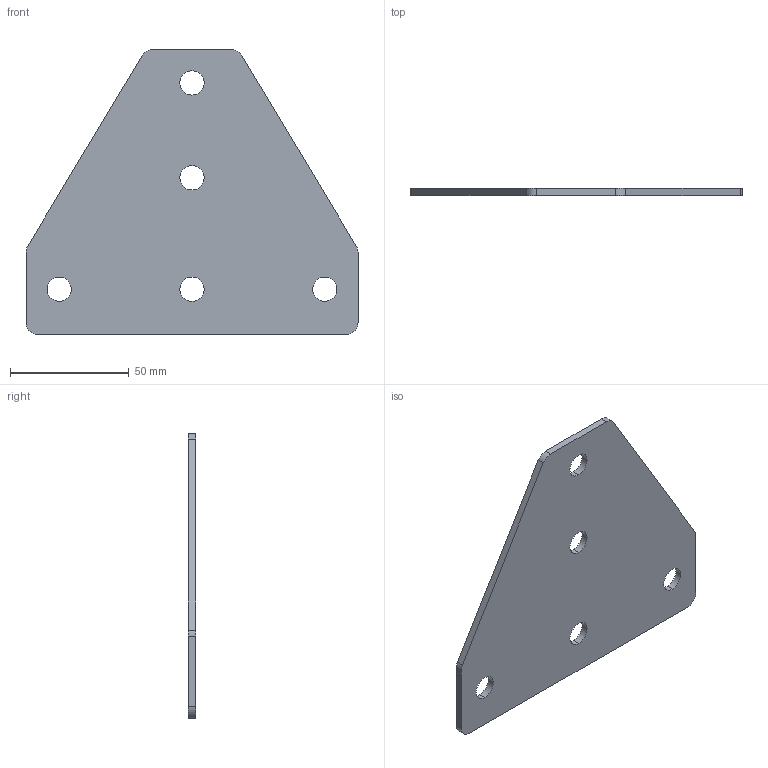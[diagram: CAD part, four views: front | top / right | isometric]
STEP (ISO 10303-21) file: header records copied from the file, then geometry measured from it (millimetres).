
FILE_DESCRIPTION (( 'STEP AP214' ), '1' );
FILE_NAME ('SNSD.30.52.39 Ò-ñîåäèíèòåëü 120õ140(C80).STEP', '2014-12-12T13:23:58', ( 'XTreme.ws' ), ( 'XTreme.ws' ), 'SwSTEP 2.0', 'SolidWorks 2014', '' );
FILE_SCHEMA (( 'AUTOMOTIVE_DESIGN' ));
Length unit declared in the file: millimetre
Products named in the file (1): SNSD.30.52.39 Ò-ñîåäèíèòåëü 120õ140(C80)
Bounding box: 140 x 3 x 120 mm (x, y, z)
Volume: 36407.5 mm3; surface area: 26077 mm2
Topology: 1 solids, 1 shells, 24 faces, 66 edges, 44 vertices
Faces by surface type: cylinder 16, plane 8
Entity records: 836 total; most frequent: DIRECTION 148, CARTESIAN_POINT 135, ORIENTED_EDGE 132, EDGE_CURVE 66, AXIS2_PLACEMENT_3D 57, VERTEX_POINT 44, LINE 34, VECTOR 34
